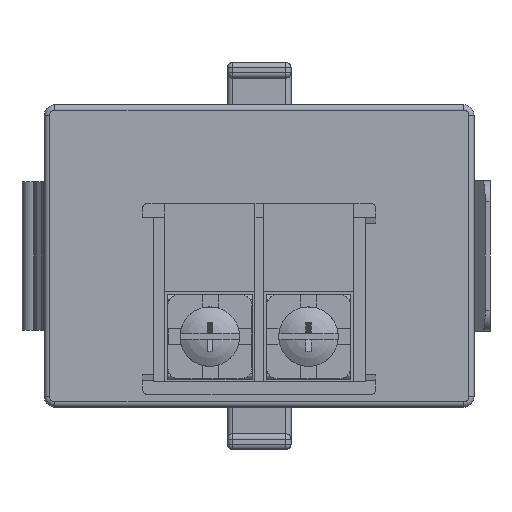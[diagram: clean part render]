
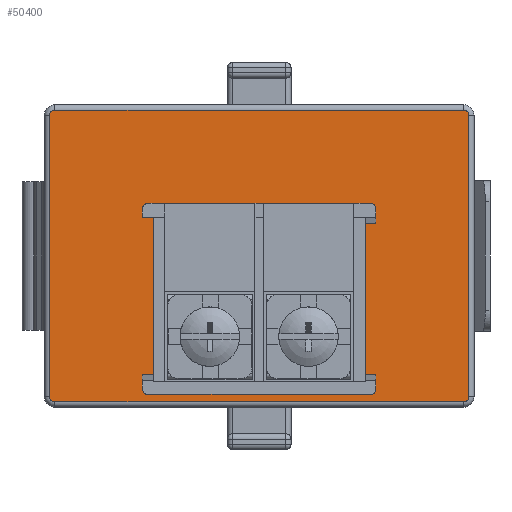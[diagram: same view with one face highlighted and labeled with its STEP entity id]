
A CAD part, front view. The second image highlights one B-rep face of the part: STEP entity #50400.
In plain terms, the highlighted planar face has unit normal (0, -1, 0).
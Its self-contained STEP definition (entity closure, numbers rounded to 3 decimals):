
#3700=CARTESIAN_POINT('',(18.55,-30.,4.75));
#3710=VERTEX_POINT('',#3700);
#3740=CARTESIAN_POINT('',(0.,-30.,4.75));
#3750=DIRECTION('',(-1.,0.,0.));
#3760=VECTOR('',#3750,1.);
#3770=LINE('',#3740,#3760);
#3780=CARTESIAN_POINT('',(-19.95,-30.,4.75));
#3790=VERTEX_POINT('',#3780);
#3800=EDGE_CURVE('',#3710,#3790,#3770,.T.);
#4030=CARTESIAN_POINT('',(19.05,-30.,4.25));
#4040=VERTEX_POINT('',#4030);
#4070=CARTESIAN_POINT('',(18.55,-30.,4.25));
#4080=DIRECTION('',(0.,-1.,0.));
#4090=DIRECTION('',(-1.,0.,0.));
#4100=AXIS2_PLACEMENT_3D('',#4070,#4080,#4090);
#4110=CIRCLE('',#4100,0.5);
#4120=EDGE_CURVE('',#4040,#3710,#4110,.T.);
#4250=CARTESIAN_POINT('',(-19.95,-30.,4.25));
#4260=DIRECTION('',(-0.,1.,0.));
#4270=DIRECTION('',(1.,0.,0.));
#4280=AXIS2_PLACEMENT_3D('',#4250,#4260,#4270);
#4290=CIRCLE('',#4280,0.5);
#4300=CARTESIAN_POINT('',(-20.45,-30.,4.25));
#4310=VERTEX_POINT('',#4300);
#4320=EDGE_CURVE('',#4310,#3790,#4290,.T.);
#48560=CARTESIAN_POINT('',(19.55,-30.,0.));
#48570=DIRECTION('',(0.,1.,-0.));
#48580=DIRECTION('',(1.,-0.,0.));
#48590=AXIS2_PLACEMENT_3D('',#48560,#48570,#48580);
#48600=PLANE('',#48590);
#48610=CARTESIAN_POINT('',(-10.65,-30.,-5.35));
#48620=DIRECTION('',(-1.,0.,0.));
#48630=VECTOR('',#48620,1.);
#48640=LINE('',#48610,#48630);
#48650=CARTESIAN_POINT('',(-10.65,-30.,-5.35));
#48660=VERTEX_POINT('',#48650);
#48670=CARTESIAN_POINT('',(-11.7,-30.,-5.35));
#48680=VERTEX_POINT('',#48670);
#48690=EDGE_CURVE('',#48660,#48680,#48640,.T.);
#48700=ORIENTED_EDGE('',*,*,#48690,.T.);
#48710=CARTESIAN_POINT('',(-10.65,-30.,0.));
#48720=DIRECTION('',(0.,-0.,1.));
#48730=VECTOR('',#48720,1.);
#48740=LINE('',#48710,#48730);
#48750=CARTESIAN_POINT('',(-10.65,-30.,-20.191));
#48760=VERTEX_POINT('',#48750);
#48770=EDGE_CURVE('',#48760,#48660,#48740,.T.);
#48780=ORIENTED_EDGE('',*,*,#48770,.T.);
#48790=CARTESIAN_POINT('',(0.,-30.,-20.191));
#48800=DIRECTION('',(1.,0.,-0.));
#48810=VECTOR('',#48800,1.);
#48820=LINE('',#48790,#48810);
#48830=CARTESIAN_POINT('',(-11.7,-30.,-20.191));
#48840=VERTEX_POINT('',#48830);
#48850=EDGE_CURVE('',#48840,#48760,#48820,.T.);
#48860=ORIENTED_EDGE('',*,*,#48850,.T.);
#48870=CARTESIAN_POINT('',(-11.7,-30.,0.));
#48880=DIRECTION('',(0.,-0.,1.));
#48890=VECTOR('',#48880,1.);
#48900=LINE('',#48870,#48890);
#48910=CARTESIAN_POINT('',(-11.7,-30.,-21.55));
#48920=VERTEX_POINT('',#48910);
#48930=EDGE_CURVE('',#48920,#48840,#48900,.T.);
#48940=ORIENTED_EDGE('',*,*,#48930,.T.);
#48950=CARTESIAN_POINT('',(-11.2,-30.,-21.55));
#48960=DIRECTION('',(0.,-1.,-0.));
#48970=DIRECTION('',(-1.,0.,0.));
#48980=AXIS2_PLACEMENT_3D('',#48950,#48960,#48970);
#48990=CIRCLE('',#48980,0.5);
#49000=CARTESIAN_POINT('',(-11.2,-30.,-22.05));
#49010=VERTEX_POINT('',#49000);
#49020=EDGE_CURVE('',#48920,#49010,#48990,.T.);
#49030=ORIENTED_EDGE('',*,*,#49020,.F.);
#49040=CARTESIAN_POINT('',(0.,-30.,-22.05));
#49050=DIRECTION('',(-1.,0.,-0.));
#49060=VECTOR('',#49050,1.);
#49070=LINE('',#49040,#49060);
#49080=CARTESIAN_POINT('',(9.8,-30.,-22.05));
#49090=VERTEX_POINT('',#49080);
#49100=EDGE_CURVE('',#49090,#49010,#49070,.T.);
#49110=ORIENTED_EDGE('',*,*,#49100,.T.);
#49120=CARTESIAN_POINT('',(9.8,-30.,-21.55));
#49130=DIRECTION('',(0.,-1.,-0.));
#49140=DIRECTION('',(-1.,0.,0.));
#49150=AXIS2_PLACEMENT_3D('',#49120,#49130,#49140);
#49160=CIRCLE('',#49150,0.5);
#49170=CARTESIAN_POINT('',(10.3,-30.,-21.55));
#49180=VERTEX_POINT('',#49170);
#49190=EDGE_CURVE('',#49090,#49180,#49160,.T.);
#49200=ORIENTED_EDGE('',*,*,#49190,.F.);
#49210=CARTESIAN_POINT('',(10.3,-30.,0.));
#49220=DIRECTION('',(0.,-0.,-1.));
#49230=VECTOR('',#49220,1.);
#49240=LINE('',#49210,#49230);
#49250=CARTESIAN_POINT('',(10.3,-30.,-20.191));
#49260=VERTEX_POINT('',#49250);
#49270=EDGE_CURVE('',#49260,#49180,#49240,.T.);
#49280=ORIENTED_EDGE('',*,*,#49270,.T.);
#49290=CARTESIAN_POINT('',(0.,-30.,-20.191));
#49300=DIRECTION('',(1.,0.,-0.));
#49310=VECTOR('',#49300,1.);
#49320=LINE('',#49290,#49310);
#49330=CARTESIAN_POINT('',(9.3,-30.,-20.191));
#49340=VERTEX_POINT('',#49330);
#49350=EDGE_CURVE('',#49340,#49260,#49320,.T.);
#49360=ORIENTED_EDGE('',*,*,#49350,.T.);
#49370=CARTESIAN_POINT('',(9.3,-30.,0.));
#49380=DIRECTION('',(0.,-0.,-1.));
#49390=VECTOR('',#49380,1.);
#49400=LINE('',#49370,#49390);
#49410=CARTESIAN_POINT('',(9.3,-30.,-5.909));
#49420=VERTEX_POINT('',#49410);
#49430=EDGE_CURVE('',#49420,#49340,#49400,.T.);
#49440=ORIENTED_EDGE('',*,*,#49430,.T.);
#49450=CARTESIAN_POINT('',(0.,-30.,-5.909));
#49460=DIRECTION('',(-1.,0.,-0.));
#49470=VECTOR('',#49460,1.);
#49480=LINE('',#49450,#49470);
#49490=CARTESIAN_POINT('',(10.3,-30.,-5.909));
#49500=VERTEX_POINT('',#49490);
#49510=EDGE_CURVE('',#49500,#49420,#49480,.T.);
#49520=ORIENTED_EDGE('',*,*,#49510,.T.);
#49530=CARTESIAN_POINT('',(10.3,-30.,0.));
#49540=DIRECTION('',(0.,-0.,-1.));
#49550=VECTOR('',#49540,1.);
#49560=LINE('',#49530,#49550);
#49570=CARTESIAN_POINT('',(10.3,-30.,-4.55));
#49580=VERTEX_POINT('',#49570);
#49590=EDGE_CURVE('',#49580,#49500,#49560,.T.);
#49600=ORIENTED_EDGE('',*,*,#49590,.T.);
#49610=CARTESIAN_POINT('',(9.8,-30.,-4.55));
#49620=DIRECTION('',(0.,-1.,0.));
#49630=DIRECTION('',(-1.,0.,0.));
#49640=AXIS2_PLACEMENT_3D('',#49610,#49620,#49630);
#49650=CIRCLE('',#49640,0.5);
#49660=CARTESIAN_POINT('',(9.8,-30.,-4.05));
#49670=VERTEX_POINT('',#49660);
#49680=EDGE_CURVE('',#49580,#49670,#49650,.T.);
#49690=ORIENTED_EDGE('',*,*,#49680,.F.);
#49700=CARTESIAN_POINT('',(0.,-30.,-4.05));
#49710=DIRECTION('',(1.,-0.,0.));
#49720=VECTOR('',#49710,1.);
#49730=LINE('',#49700,#49720);
#49740=CARTESIAN_POINT('',(-11.2,-30.,-4.05));
#49750=VERTEX_POINT('',#49740);
#49760=EDGE_CURVE('',#49750,#49670,#49730,.T.);
#49770=ORIENTED_EDGE('',*,*,#49760,.T.);
#49780=CARTESIAN_POINT('',(-11.2,-30.,-4.55));
#49790=DIRECTION('',(0.,1.,-0.));
#49800=DIRECTION('',(1.,-0.,0.));
#49810=AXIS2_PLACEMENT_3D('',#49780,#49790,#49800);
#49820=CIRCLE('',#49810,0.5);
#49830=CARTESIAN_POINT('',(-11.7,-30.,-4.55));
#49840=VERTEX_POINT('',#49830);
#49850=EDGE_CURVE('',#49840,#49750,#49820,.T.);
#49860=ORIENTED_EDGE('',*,*,#49850,.T.);
#49870=CARTESIAN_POINT('',(-11.7,-30.,0.));
#49880=DIRECTION('',(0.,0.,1.));
#49890=VECTOR('',#49880,1.);
#49900=LINE('',#49870,#49890);
#49910=EDGE_CURVE('',#48680,#49840,#49900,.T.);
#49920=ORIENTED_EDGE('',*,*,#49910,.T.);
#49930=EDGE_LOOP('',(#49920,#49860,#49770,#49690,#49600,#49520,#49440,
#49360,#49280,#49200,#49110,#49030,#48940,#48860,#48780,#48700));
#49940=FACE_BOUND('',#49930,.T.);
#49950=CARTESIAN_POINT('',(18.55,-30.,-22.25));
#49960=DIRECTION('',(0.,-1.,0.));
#49970=DIRECTION('',(-1.,0.,0.));
#49980=AXIS2_PLACEMENT_3D('',#49950,#49960,#49970);
#49990=CIRCLE('',#49980,0.5);
#50000=CARTESIAN_POINT('',(18.55,-30.,-22.75));
#50010=VERTEX_POINT('',#50000);
#50020=CARTESIAN_POINT('',(19.05,-30.,-22.25));
#50030=VERTEX_POINT('',#50020);
#50040=EDGE_CURVE('',#50010,#50030,#49990,.T.);
#50050=ORIENTED_EDGE('',*,*,#50040,.T.);
#50060=CARTESIAN_POINT('',(0.,-30.,-22.75));
#50070=DIRECTION('',(-1.,0.,0.));
#50080=VECTOR('',#50070,1.);
#50090=LINE('',#50060,#50080);
#50100=CARTESIAN_POINT('',(-19.95,-30.,-22.75));
#50110=VERTEX_POINT('',#50100);
#50120=EDGE_CURVE('',#50010,#50110,#50090,.T.);
#50130=ORIENTED_EDGE('',*,*,#50120,.F.);
#50140=CARTESIAN_POINT('',(-19.95,-30.,-22.25));
#50150=DIRECTION('',(-0.,1.,0.));
#50160=DIRECTION('',(1.,0.,0.));
#50170=AXIS2_PLACEMENT_3D('',#50140,#50150,#50160);
#50180=CIRCLE('',#50170,0.5);
#50190=CARTESIAN_POINT('',(-20.45,-30.,-22.25));
#50200=VERTEX_POINT('',#50190);
#50210=EDGE_CURVE('',#50110,#50200,#50180,.T.);
#50220=ORIENTED_EDGE('',*,*,#50210,.F.);
#50230=CARTESIAN_POINT('',(-20.45,-30.,0.));
#50240=DIRECTION('',(0.,0.,-1.));
#50250=VECTOR('',#50240,1.);
#50260=LINE('',#50230,#50250);
#50270=EDGE_CURVE('',#4310,#50200,#50260,.T.);
#50280=ORIENTED_EDGE('',*,*,#50270,.T.);
#50290=ORIENTED_EDGE('',*,*,#4320,.F.);
#50300=ORIENTED_EDGE('',*,*,#3800,.T.);
#50310=ORIENTED_EDGE('',*,*,#4120,.T.);
#50320=CARTESIAN_POINT('',(19.05,-30.,0.));
#50330=DIRECTION('',(-0.,-0.,-1.));
#50340=VECTOR('',#50330,1.);
#50350=LINE('',#50320,#50340);
#50360=EDGE_CURVE('',#4040,#50030,#50350,.T.);
#50370=ORIENTED_EDGE('',*,*,#50360,.F.);
#50380=EDGE_LOOP('',(#50370,#50310,#50300,#50290,#50280,#50220,#50130,
#50050));
#50390=FACE_OUTER_BOUND('',#50380,.T.);
#50400=ADVANCED_FACE('',(#49940,#50390),#48600,.F.);
